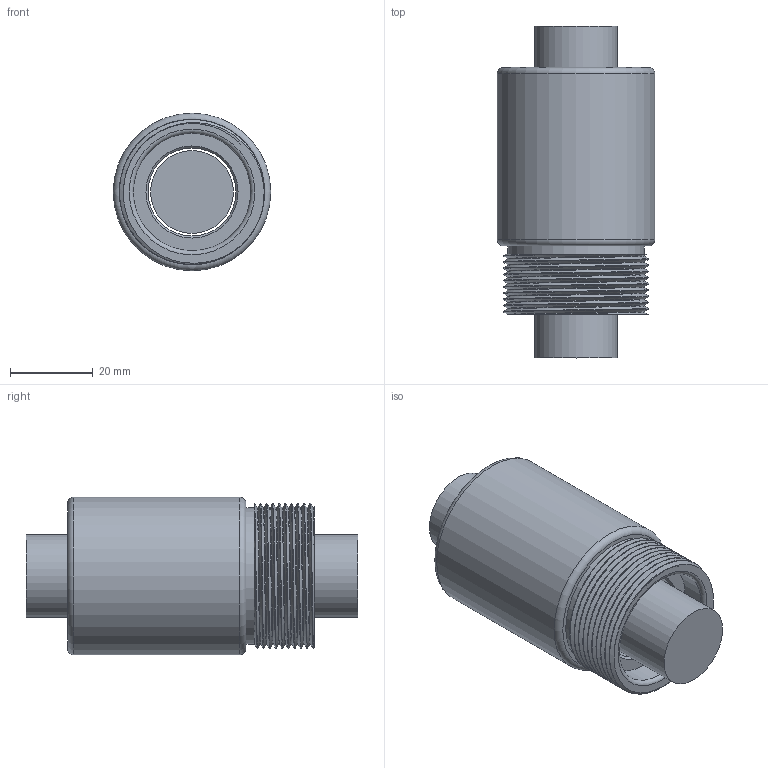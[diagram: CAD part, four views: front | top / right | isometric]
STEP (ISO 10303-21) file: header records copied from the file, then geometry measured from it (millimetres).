
FILE_DESCRIPTION(/* description */ (''),/* implementation_level */ '2;1');
FILE_NAME(/* name */ '2005.prt.step',/* time_stamp */ '2008-12-05T09:41:40+08:00',/* author */ (''),/* organization */ (''),/* preprocessor_version */ 'ST-DEVELOPER v11',/* originating_system */ 'SIEMENS UGS NX 6.0',/* authorisation */ '');
FILE_SCHEMA (('AUTOMOTIVE_DESIGN { 1 0 10303 214 1 1 1 1 }'));
Length unit declared in the file: millimetre
Products named in the file (1): 2005
Bounding box: 38 x 80 x 38 mm (x, y, z)
Volume: 63870 mm3; surface area: 19330 mm2
Topology: 2 solids, 2 shells, 24 faces, 45 edges, 29 vertices
Faces by surface type: cylinder 8, plane 8, torus 4, cone 2, bspline 2
Full cylindrical faces by diameter (mm): 19.95 x1, 21.2 x1, 28.3 x2, 33 x1, 38 x1
Entity records: 2262 total; most frequent: CARTESIAN_POINT 1811, DIRECTION 90, ORIENTED_EDGE 60, AXIS2_PLACEMENT_3D 45, EDGE_LOOP 42, FACE_BOUND 36, EDGE_CURVE 30, VERTEX_POINT 26
